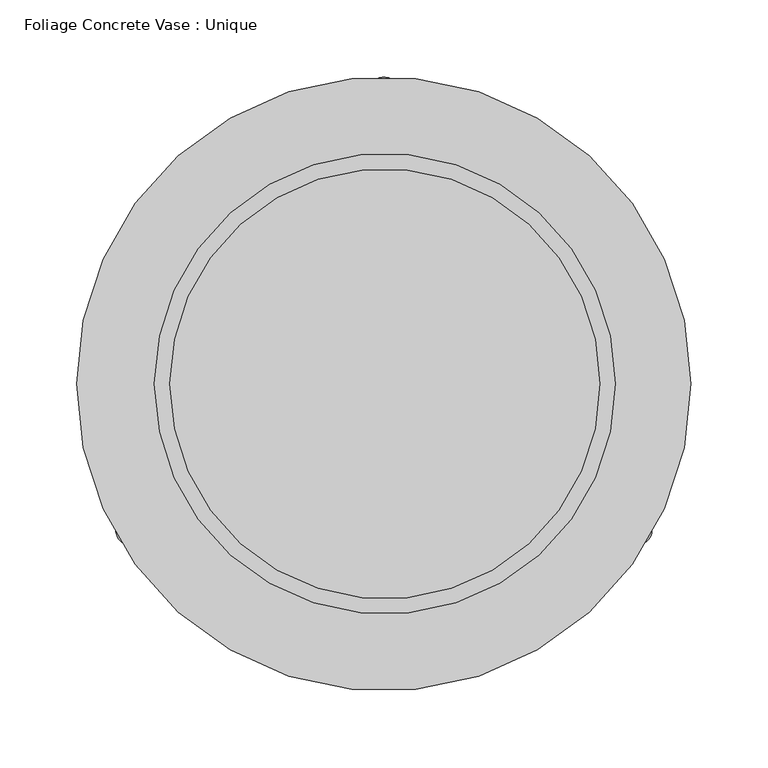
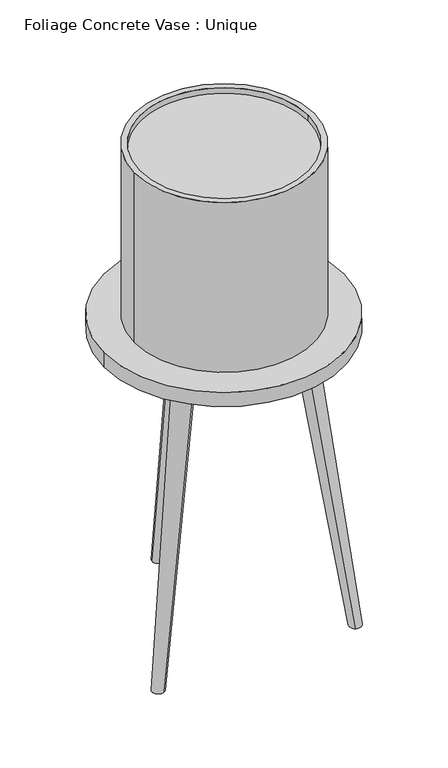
"""IFC4 building model written with IfcOpenShell, lengths in millimetres: proxy geometry, Foliage Concrete Vase : Unique."""

from ifc_helpers import new_model, si_unit, point, frame, frame_2d, origin, origin_2d, place, context, project, spatial, polyline, circle_curve, trimmed, segment, composite_curve, outline, extrude, source, transform, mapped, element, save
from ifc_brep_helpers import plane_surface, cylinder_surface, revolved_surface, spline_surface, advanced_brep


def foliage_concrete_vase_unique_91442739(model_context):
    return source(origin(), model_context, "Body", "SolidModel", [
        extrude(outline(polyline([(-17.5, 112.5), (17.5, 112.5), (106.1778579, -41.0945554), (88.6778579, -71.4054446), (-88.6778579, -71.4054446), (-106.1778579, -41.0945554), (-17.5, 112.5)]), holes=[polyline([(88.8573499, -41.0945554), (8.839746, 97.5), (-8.839746, 97.5), (-88.8573499, -41.0945554), (-80.0176039, -56.4054446), (80.0176039, -56.4054446), (88.8573499, -41.0945554)])]), frame((0.0, 0.0, 465.0), z_axis=(0.0, 0.0, 1.0), x_axis=(1.0, 0.0, 0.0)), (0.0, 0.0, 1.0), 60.0),
        advanced_brep(
        [(106.1778579, -41.0945554, 525.0), (88.6778579, -71.4054446, 525.0), (169.5448267, -86.339746, 0.0), (159.5448267, -103.660254, 0.0)],
        [
            (0, 1, circle_curve(frame((97.4278579, -56.25, 525.0), z_axis=(0.0, 0.0, 1.0), x_axis=(-0.5000000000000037, -0.8660254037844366, 0.0)), 17.5)),
            (1, 0, circle_curve(frame((97.4278579, -56.25, 525.0), z_axis=(0.0, 0.0, 1.0), x_axis=(-0.5000000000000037, -0.8660254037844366, 0.0)), 17.5)),
            (2, 3, circle_curve(frame((164.5448267, -95.0, 0.0), z_axis=(0.0, 0.0, -1.0), x_axis=(-0.5000000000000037, -0.8660254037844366, 0.0)), 10.0)),
            (3, 2, circle_curve(frame((164.5448267, -95.0, 0.0), z_axis=(0.0, 0.0, -1.0), x_axis=(-0.5000000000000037, -0.8660254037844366, 0.0)), 10.0)),
            (3, 1),
            (0, 2),
        ],
        [
            plane_surface(frame((97.4278579, -56.25, 525.0), z_axis=(0.0, 0.0, 1.0), x_axis=(-0.8660254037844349, 0.5000000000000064, 0.0))),
            plane_surface(frame((164.5448267, -95.0, 0.0), z_axis=(0.0, 0.0, -1.0), x_axis=(-0.8660254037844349, 0.5000000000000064, 0.0))),
            spline_surface(2, 1, [[(169.5448267, -86.339746, 0.0), (106.1778579, -41.0945554, 525.0)], [(160.88457269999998, -81.339746, 0.0), (91.02241330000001, -32.3445554, 525.0)], [(155.88457269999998, -90.0, 0.0), (82.27241330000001, -47.5, 525.0)], [(150.88457269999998, -98.660254, 0.0), (73.5224133, -62.655444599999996, 525.0)], [(159.5448267, -103.660254, 0.0), (88.6778579, -71.4054446, 525.0)]], [3, 2, 3], [2, 2], [0.0, 1.0, 2.0], [0.0, 1.0], weights=[[1.0, 1.0], [0.7071067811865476, 0.7071067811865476], [1.0, 1.0], [0.7071067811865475, 0.7071067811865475], [1.0, 1.0]]),
            spline_surface(2, 1, [[(159.5448267, -103.660254, 0.0), (88.6778579, -71.4054446, 525.0)], [(163.13202136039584, -105.73132181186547, 0.0), (94.95544859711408, -75.02981327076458, 525.0)], [(167.13301712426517, -104.65925823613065, 0.0), (101.95719121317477, -73.15370198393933, 525.0)], [(171.13401288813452, -103.58719466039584, 0.0), (108.95893382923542, -71.27759069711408, 525.0)], [(173.2050807, -100.0, 0.0), (112.5833025, -65.0, 525.0)], [(175.27614851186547, -96.41280533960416, 0.0), (116.20767117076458, -58.722409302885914, 525.0)], [(174.20408493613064, -92.41180957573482, 0.0), (114.33155988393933, -51.720666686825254, 525.0)], [(173.13202136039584, -88.41081381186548, 0.0), (112.45544859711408, -44.71892407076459, 525.0)], [(169.5448267, -86.339746, 0.0), (106.1778579, -41.0945554, 525.0)]], [3, 2, 2, 2, 3], [2, 2], [0.0, 1.0, 2.0, 3.0, 4.0], [0.0, 1.0], weights=[[1.0, 1.0], [0.9238795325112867, 0.9238795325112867], [1.0, 1.0], [0.9238795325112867, 0.9238795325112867], [1.0, 1.0], [0.9238795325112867, 0.9238795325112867], [1.0, 1.0], [0.9238795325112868, 0.9238795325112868], [1.0, 1.0]]),
        ],
        [
            (0, [[1, 2]]),
            (1, [[3, 4]]),
            (2, [[-4, 5, -1, 6]]),
            (3, [[-3, -6, -2, -5]]),
        ],
    ),
        advanced_brep(
        [(-88.6778579, -71.4054446, 525.0), (-106.1778579, -41.0945554, 525.0), (-159.5448267, -103.660254, 0.0), (-169.5448267, -86.339746, 0.0)],
        [
            (0, 1, circle_curve(frame((-97.4278579, -56.25, 525.0), z_axis=(0.0, 0.0, 1.0), x_axis=(-0.4999999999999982, 0.8660254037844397, 0.0)), 17.5)),
            (1, 0, circle_curve(frame((-97.4278579, -56.25, 525.0), z_axis=(0.0, 0.0, 1.0), x_axis=(-0.4999999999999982, 0.8660254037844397, 0.0)), 17.5)),
            (2, 3, circle_curve(frame((-164.5448267, -95.0, 0.0), z_axis=(0.0, 0.0, -1.0), x_axis=(-0.4999999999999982, 0.8660254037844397, 0.0)), 10.0)),
            (3, 2, circle_curve(frame((-164.5448267, -95.0, 0.0), z_axis=(0.0, 0.0, -1.0), x_axis=(-0.4999999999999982, 0.8660254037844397, 0.0)), 10.0)),
            (3, 1),
            (0, 2),
        ],
        [
            plane_surface(frame((-97.4278579, -56.25, 525.0), z_axis=(0.0, 0.0, 1.0000000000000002), x_axis=(0.8660254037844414, 0.49999999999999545, 0.0))),
            plane_surface(frame((-164.5448267, -95.0, 0.0), z_axis=(0.0, 0.0, -1.0000000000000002), x_axis=(0.8660254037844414, 0.49999999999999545, 0.0))),
            spline_surface(2, 1, [[(-159.5448267, -103.660254, 0.0), (-88.6778579, -71.4054446, 525.0)], [(-150.88457269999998, -98.660254, 0.0), (-73.52241330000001, -62.655444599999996, 525.0)], [(-155.88457269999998, -90.0, 0.0), (-82.27241330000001, -47.5, 525.0)], [(-160.8845727, -81.339746, 0.0), (-91.02241330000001, -32.344555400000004, 525.0)], [(-169.5448267, -86.339746, 0.0), (-106.1778579, -41.0945554, 525.0)]], [3, 2, 3], [2, 2], [0.0, 1.0, 2.0], [0.0, 1.0], weights=[[1.0, 1.0], [0.7071067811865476, 0.7071067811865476], [1.0, 1.0], [0.7071067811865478, 0.7071067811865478], [1.0, 1.0]]),
            spline_surface(2, 1, [[(-169.5448267, -86.339746, 0.0), (-106.1778579, -41.0945554, 525.0)], [(-173.13202136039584, -88.41081381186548, 0.0), (-112.4554485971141, -44.71892407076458, 525.0)], [(-174.20408493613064, -92.41180957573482, 0.0), (-114.33155988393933, -51.72066668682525, 525.0)], [(-175.27614851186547, -96.41280533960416, 0.0), (-116.2076711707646, -58.722409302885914, 525.0)], [(-173.2050807, -100.0, 0.0), (-112.5833025, -65.0, 525.0)], [(-171.13401288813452, -103.58719466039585, 0.0), (-108.95893382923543, -71.27759069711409, 525.0)], [(-167.13301712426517, -104.65925823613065, 0.0), (-101.95719121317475, -73.15370198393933, 525.0)], [(-163.13202136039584, -105.73132181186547, 0.0), (-94.95544859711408, -75.02981327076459, 525.0)], [(-159.5448267, -103.660254, 0.0), (-88.6778579, -71.4054446, 525.0)]], [3, 2, 2, 2, 3], [2, 2], [0.0, 1.0, 2.0, 3.0, 4.0], [0.0, 1.0], weights=[[1.0, 1.0], [0.9238795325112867, 0.9238795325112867], [1.0, 1.0], [0.9238795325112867, 0.9238795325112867], [1.0, 1.0], [0.9238795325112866, 0.9238795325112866], [1.0, 1.0], [0.9238795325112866, 0.9238795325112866], [1.0, 1.0]]),
        ],
        [
            (0, [[1, 2]]),
            (1, [[3, 4]]),
            (2, [[-4, 5, -1, 6]]),
            (3, [[-3, -6, -2, -5]]),
        ],
    ),
        advanced_brep(
        [(-17.5, 112.5, 525.0), (17.5, 112.5, 525.0), (-10.0, 190.0, 0.0), (10.0, 190.0, 0.0)],
        [
            (0, 1, circle_curve(frame((0.0, 112.5, 525.0), z_axis=(0.0, 0.0, 1.0), x_axis=(1.0, 0.0, 0.0)), 17.5)),
            (1, 0, circle_curve(frame((0.0, 112.5, 525.0), z_axis=(0.0, 0.0, 1.0), x_axis=(1.0, 0.0, 0.0)), 17.5)),
            (2, 3, circle_curve(frame((0.0, 190.0, 0.0), z_axis=(0.0, 0.0, -1.0), x_axis=(1.0, 0.0, 0.0)), 10.0)),
            (3, 2, circle_curve(frame((0.0, 190.0, 0.0), z_axis=(0.0, 0.0, -1.0), x_axis=(1.0, 0.0, 0.0)), 10.0)),
            (3, 1),
            (0, 2),
        ],
        [
            plane_surface(frame((0.0, 112.5, 525.0), z_axis=(0.0, 0.0, 1.0), x_axis=(0.0, -1.0, 0.0))),
            plane_surface(frame((0.0, 190.0, 0.0), z_axis=(0.0, 0.0, -1.0), x_axis=(0.0, -1.0, 0.0))),
            spline_surface(2, 1, [[(-10.0, 190.0, 0.0), (-17.5, 112.5, 525.0)], [(-10.0, 180.0, 0.0), (-17.5, 95.0, 525.0)], [(0.0, 180.0, 0.0), (0.0, 95.0, 525.0)], [(10.0, 180.0, 0.0), (17.5, 95.0, 525.0)], [(10.0, 190.0, 0.0), (17.5, 112.5, 525.0)]], [3, 2, 3], [2, 2], [0.0, 1.0, 2.0], [0.0, 1.0], weights=[[1.0, 1.0], [0.7071067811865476, 0.7071067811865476], [1.0, 1.0], [0.7071067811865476, 0.7071067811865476], [1.0, 1.0]]),
            spline_surface(2, 1, [[(10.0, 190.0, 0.0), (17.5, 112.5, 525.0)], [(10.0, 200.0, 0.0), (17.5, 130.0, 525.0)], [(0.0, 200.0, 0.0), (0.0, 130.0, 525.0)], [(-10.0, 200.0, 0.0), (-17.5, 130.0, 525.0)], [(-10.0, 190.0, 0.0), (-17.5, 112.5, 525.0)]], [3, 2, 3], [2, 2], [0.0, 1.0, 2.0], [0.0, 1.0], weights=[[1.0, 1.0], [0.7071067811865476, 0.7071067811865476], [1.0, 1.0], [0.7071067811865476, 0.7071067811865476], [1.0, 1.0]]),
        ],
        [
            (0, [[1, 2]]),
            (1, [[3, 4]]),
            (2, [[-4, 5, -1, 6]]),
            (3, [[-3, -6, -2, -5]]),
        ],
    ),
        extrude(outline(composite_curve([segment(trimmed(circle_curve(origin_2d(), 200.0), [point((-200.0, 0.0))], [point((200.0, 0.0))], False, "CARTESIAN"), True, "CONTINUOUS"), segment(trimmed(circle_curve(origin_2d(), 200.0), [point((200.0, 0.0))], [point((-200.0, 0.0))], False, "CARTESIAN"), True, "CONTINUOUS")], self_intersect=False)), frame((0.0, 0.0, 525.0), z_axis=(0.0, 0.0, 1.0), x_axis=(1.0, 0.0, 0.0)), (0.0, 0.0, 1.0), 25.0),
        extrude(outline(composite_curve([segment(trimmed(circle_curve(frame_2d((0.6047061, 0.0)), 140.0), [point((140.6047061, 0.0))], [point((-139.3952939, 0.0))], False, "CARTESIAN"), True, "CONTINUOUS"), segment(trimmed(circle_curve(frame_2d((0.6047061, 0.0)), 140.0), [point((-139.3952939, 0.0))], [point((140.6047061, 0.0))], False, "CARTESIAN"), True, "CONTINUOUS")], self_intersect=False)), frame((0.0, 0.0, 560.0), z_axis=(0.0, 0.0, 1.0), x_axis=(1.0, 0.0, 0.0)), (0.0, 0.0, 1.0), 280.0),
        advanced_brep(
        [(-149.3952939, 0.0, 850.0), (150.6047061, 0.0, 850.0), (140.6047061, 0.0, 850.0), (-139.3952939, 0.0, 850.0), (-149.3952939, 0.0, 550.0), (150.6047061, 0.0, 550.0), (-139.3952939, 0.0, 560.0), (140.6047061, 0.0, 560.0)],
        [
            (0, 1, circle_curve(frame((0.6047061, 0.0, 850.0), z_axis=(0.0, 0.0, 1.0), x_axis=(1.0, 0.0, 0.0)), 150.0)),
            (1, 0, circle_curve(frame((0.6047061, 0.0, 850.0), z_axis=(0.0, 0.0, 1.0), x_axis=(1.0, 0.0, 0.0)), 150.0)),
            (2, 3, circle_curve(frame((0.6047061, 0.0, 850.0), z_axis=(0.0, 0.0, -1.0), x_axis=(1.0, 0.0, 0.0)), 140.0)),
            (3, 2, circle_curve(frame((0.6047061, 0.0, 850.0), z_axis=(0.0, 0.0, -1.0), x_axis=(1.0, 0.0, 0.0)), 140.0)),
            (4, 5, circle_curve(frame((0.6047061, 0.0, 550.0), z_axis=(0.0, 0.0, -1.0), x_axis=(1.0, 0.0, 0.0)), 150.0)),
            (5, 4, circle_curve(frame((0.6047061, 0.0, 550.0), z_axis=(0.0, 0.0, -1.0), x_axis=(1.0, 0.0, 0.0)), 150.0)),
            (0, 4),
            (5, 1),
            (6, 7, circle_curve(frame((0.6047061, 0.0, 560.0), z_axis=(0.0, 0.0, 1.0), x_axis=(1.0, 0.0, 0.0)), 140.0)),
            (7, 6, circle_curve(frame((0.6047061, 0.0, 560.0), z_axis=(0.0, 0.0, 1.0), x_axis=(1.0, 0.0, 0.0)), 140.0)),
            (6, 3),
            (2, 7),
        ],
        [
            plane_surface(frame((150.6047061, 0.0, 850.0), z_axis=(0.0, 0.0, 1.0), x_axis=(0.0, 1.0, 0.0))),
            plane_surface(frame((150.6047061, 0.0, 550.0), z_axis=(0.0, 0.0, -1.0), x_axis=(0.0, -1.0, 0.0))),
            cylinder_surface(frame((0.6047061, 0.0, 550.0), z_axis=(0.0, 0.0, 1.0), x_axis=(1.0, 0.0, 0.0)), 150.0),
            plane_surface(frame((140.6047061, 0.0, 560.0), z_axis=(0.0, 0.0, 1.0), x_axis=(0.0, -1.0, 0.0))),
            revolved_surface(polyline([(140.6047061, 0.0, 850.0), (140.6047061, 0.0, 560.0)]), (0.6047061, 0.0, 560.0), (0.0, 0.0, 1.0)),
        ],
        [
            (0, [[1, 2], [3, 4]]),
            (1, [[5, 6]]),
            (2, [[-1, 7, -6, 8]]),
            (2, [[-2, -8, -5, -7]]),
            (3, [[9, 10]]),
            (4, [[-9, 11, -3, 12]]),
            (4, [[-10, -12, -4, -11]]),
        ],
    ),
    ])


if __name__ == "__main__":
    model = new_model("IFC4")
    model_context = context("Model", 3, world=origin())
    ifc_project = project(units=[si_unit("LENGTHUNIT", "METRE", prefix="MILLI")], contexts=[model_context])
    site = spatial("IfcSite", under=ifc_project)
    building = spatial("IfcBuilding", under=site)
    placement = place(None, origin())
    foliage_concrete_vase_unique_shape = foliage_concrete_vase_unique_91442739(model_context)
    element("IfcBuildingElementProxy", 1, Name="Foliage Concrete Vase : Unique", ObjectType="Foliage Concrete Vase : Unique", at=placement, inside=building, context=model_context, shape_type="MappedRepresentation", body=[
        mapped(foliage_concrete_vase_unique_shape, transform((0.0, 0.0, 0.0), x_axis=(1.0, 0.0, 0.0), y_axis=(0.0, 1.0, 0.0), z_axis=(0.0, 0.0, 1.0))),
    ])
    save(model, "model.ifc")
